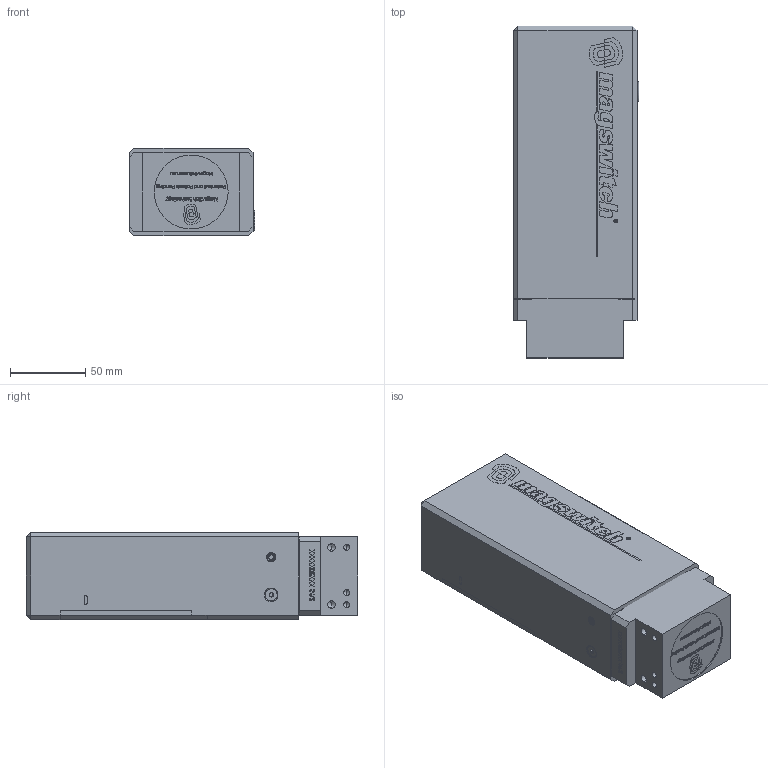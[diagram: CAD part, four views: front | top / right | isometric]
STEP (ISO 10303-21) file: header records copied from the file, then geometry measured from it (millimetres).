
FILE_DESCRIPTION (( 'STEP AP203' ), '1' );
FILE_NAME ('80151264.STEP', '2022-08-26T15:24:57', ( '' ), ( '' ), 'SwSTEP 2.0', 'SolidWorks 2018', '' );
FILE_SCHEMA (( 'CONFIG_CONTROL_DESIGN' ));
Products named in the file (2): 80151264
Bounding box: 83.12 x 220 x 58 mm (x, y, z)
Volume: 991964 mm3; surface area: 111606.2 mm2
Topology: 15 solids, 19 shells, 3430 faces, 9131 edges, 5984 vertices
Faces by surface type: plane 1613, bspline 969, cylinder 665, cone 171, torus 12
Entity records: 158745 total; most frequent: CARTESIAN_POINT 82970, ORIENTED_EDGE 18158, DIRECTION 11441, EDGE_CURVE 9079, VERTEX_POINT 5984, VECTOR 5585, LINE 5585, EDGE_LOOP 3739
